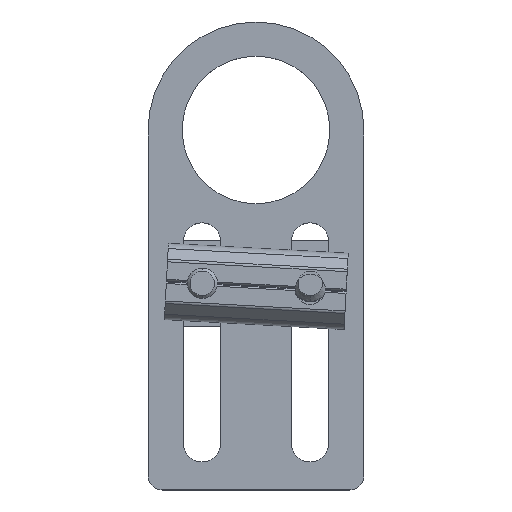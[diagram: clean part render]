
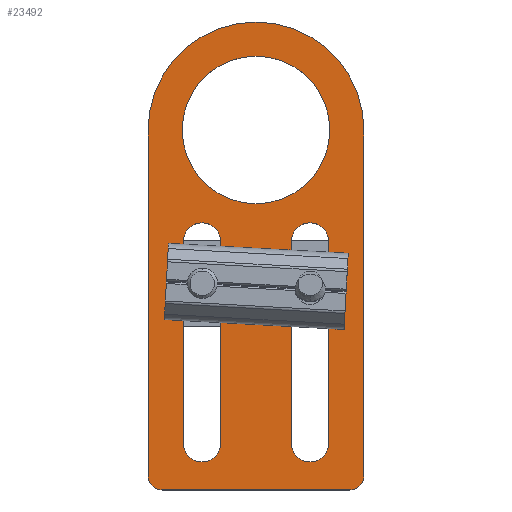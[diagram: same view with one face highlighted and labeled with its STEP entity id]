
A CAD part, top view. The second image highlights one B-rep face of the part: STEP entity #23492.
In plain terms, the highlighted planar face has unit normal (0, 0, 1).
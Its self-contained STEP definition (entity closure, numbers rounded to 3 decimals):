
#69 = EDGE_CURVE ( 'NONE', #13486, #8003, #1138, .T. ) ;
#238 = CIRCLE ( 'NONE', #19460, 10.25 ) ;
#676 = DIRECTION ( 'NONE',  ( -1., 0., 0. ) ) ;
#788 = EDGE_CURVE ( 'NONE', #7559, #11902, #5696, .T. ) ;
#910 = EDGE_CURVE ( 'NONE', #24704, #13486, #21410, .T. ) ;
#1138 = LINE ( 'NONE', #16426, #21660 ) ;
#1253 = CARTESIAN_POINT ( 'NONE',  ( -90.611, -1.976, 57.345 ) ) ;
#1551 = AXIS2_PLACEMENT_3D ( 'NONE', #7754, #5622, #9360 ) ;
#1603 = ORIENTED_EDGE ( 'NONE', *, *, #788, .T. ) ;
#1630 = DIRECTION ( 'NONE',  ( 0., 0., 1. ) ) ;
#1838 = CARTESIAN_POINT ( 'NONE',  ( -108.211, -29.976, 57.345 ) ) ;
#1859 = DIRECTION ( 'NONE',  ( 0., 1., 0. ) ) ;
#2878 = EDGE_CURVE ( 'NONE', #6846, #20332, #5471, .T. ) ;
#3002 = ORIENTED_EDGE ( 'NONE', *, *, #2878, .T. ) ;
#3030 = VERTEX_POINT ( 'NONE', #6841 ) ;
#3185 = LINE ( 'NONE', #6912, #23143 ) ;
#3367 = AXIS2_PLACEMENT_3D ( 'NONE', #9179, #18710, #22638 ) ;
#3538 = EDGE_CURVE ( 'NONE', #20332, #6700, #24167, .T. ) ;
#3564 = VECTOR ( 'NONE', #1859, 1000. ) ;
#3763 = CARTESIAN_POINT ( 'NONE',  ( -90.461, 13.524, 57.345 ) ) ;
#3825 = ORIENTED_EDGE ( 'NONE', *, *, #23209, .T. ) ;
#4050 = CIRCLE ( 'NONE', #14793, 2.6 ) ;
#4423 = DIRECTION ( 'NONE',  ( 0., 0., 1. ) ) ;
#4518 = CARTESIAN_POINT ( 'NONE',  ( -87.711, -34.476, 57.345 ) ) ;
#4539 = AXIS2_PLACEMENT_3D ( 'NONE', #9408, #18768, #20816 ) ;
#4864 = VECTOR ( 'NONE', #8355, 1000. ) ;
#5030 = ORIENTED_EDGE ( 'NONE', *, *, #17384, .T. ) ;
#5175 = EDGE_CURVE ( 'NONE', #17436, #6846, #17914, .T. ) ;
#5234 = ORIENTED_EDGE ( 'NONE', *, *, #24015, .T. ) ;
#5330 = DIRECTION ( 'NONE',  ( 0., 0., -1. ) ) ;
#5471 = LINE ( 'NONE', #19915, #4864 ) ;
#5561 = CARTESIAN_POINT ( 'NONE',  ( -90.611, -3.781, 57.345 ) ) ;
#5575 = CARTESIAN_POINT ( 'NONE',  ( -108.211, -1.976, 57.345 ) ) ;
#5622 = DIRECTION ( 'NONE',  ( 0., 0., 1. ) ) ;
#5670 = ORIENTED_EDGE ( 'NONE', *, *, #7588, .T. ) ;
#5696 = LINE ( 'NONE', #24645, #18959 ) ;
#5776 = LINE ( 'NONE', #5561, #19965 ) ;
#5832 = CARTESIAN_POINT ( 'NONE',  ( -113.711, -36.476, 57.345 ) ) ;
#5845 = EDGE_LOOP ( 'NONE', ( #7960, #7590, #23266, #3825 ) ) ;
#6310 = CARTESIAN_POINT ( 'NONE',  ( -105.611, -1.976, 57.345 ) ) ;
#6492 = FACE_OUTER_BOUND ( 'NONE', #18082, .T. ) ;
#6620 = VERTEX_POINT ( 'NONE', #6956 ) ;
#6700 = VERTEX_POINT ( 'NONE', #7366 ) ;
#6841 = CARTESIAN_POINT ( 'NONE',  ( -110.961, 13.524, 57.345 ) ) ;
#6846 = VERTEX_POINT ( 'NONE', #5832 ) ;
#6912 = CARTESIAN_POINT ( 'NONE',  ( -115.711, -3.781, 57.345 ) ) ;
#6923 = ORIENTED_EDGE ( 'NONE', *, *, #22011, .T. ) ;
#6956 = CARTESIAN_POINT ( 'NONE',  ( -110.811, -29.976, 57.345 ) ) ;
#7215 = VERTEX_POINT ( 'NONE', #13379 ) ;
#7366 = CARTESIAN_POINT ( 'NONE',  ( -85.711, -34.476, 57.345 ) ) ;
#7559 = VERTEX_POINT ( 'NONE', #6310 ) ;
#7588 = EDGE_CURVE ( 'NONE', #13886, #17436, #3185, .T. ) ;
#7590 = ORIENTED_EDGE ( 'NONE', *, *, #910, .T. ) ;
#7641 = CIRCLE ( 'NONE', #14337, 2.6 ) ;
#7754 = CARTESIAN_POINT ( 'NONE',  ( -115.711, -36.476, 57.345 ) ) ;
#7808 = AXIS2_PLACEMENT_3D ( 'NONE', #1838, #15373, #9572 ) ;
#7960 = ORIENTED_EDGE ( 'NONE', *, *, #14539, .T. ) ;
#8003 = VERTEX_POINT ( 'NONE', #23381 ) ;
#8229 = CARTESIAN_POINT ( 'NONE',  ( -87.711, -36.476, 57.345 ) ) ;
#8274 = CARTESIAN_POINT ( 'NONE',  ( -93.211, -1.976, 57.345 ) ) ;
#8355 = DIRECTION ( 'NONE',  ( 1., 0., 0. ) ) ;
#8578 = DIRECTION ( 'NONE',  ( -1., 0., 0. ) ) ;
#8985 = CIRCLE ( 'NONE', #3367, 10.25 ) ;
#9179 = CARTESIAN_POINT ( 'NONE',  ( -100.711, 13.524, 57.345 ) ) ;
#9360 = DIRECTION ( 'NONE',  ( 1., 0., 0. ) ) ;
#9408 = CARTESIAN_POINT ( 'NONE',  ( -100.711, 13.524, 57.345 ) ) ;
#9572 = DIRECTION ( 'NONE',  ( -1., 0., 0. ) ) ;
#9824 = DIRECTION ( 'NONE',  ( -1., 0., 0. ) ) ;
#11162 = DIRECTION ( 'NONE',  ( 0., -1., 0. ) ) ;
#11456 = CARTESIAN_POINT ( 'NONE',  ( -85.711, -3.781, 57.345 ) ) ;
#11595 = DIRECTION ( 'NONE',  ( 0., 0., -1. ) ) ;
#11901 = CIRCLE ( 'NONE', #7808, 2.6 ) ;
#11902 = VERTEX_POINT ( 'NONE', #12405 ) ;
#11975 = CARTESIAN_POINT ( 'NONE',  ( -115.711, -34.476, 57.345 ) ) ;
#11994 = LINE ( 'NONE', #11456, #3564 ) ;
#12109 = VERTEX_POINT ( 'NONE', #3763 ) ;
#12211 = DIRECTION ( 'NONE',  ( 0., 0., 1. ) ) ;
#12234 = FACE_BOUND ( 'NONE', #5845, .T. ) ;
#12405 = CARTESIAN_POINT ( 'NONE',  ( -105.611, -29.976, 57.345 ) ) ;
#12551 = ORIENTED_EDGE ( 'NONE', *, *, #5175, .T. ) ;
#12822 = DIRECTION ( 'NONE',  ( 0., -1., 0. ) ) ;
#13230 = EDGE_CURVE ( 'NONE', #3030, #12109, #238, .T. ) ;
#13379 = CARTESIAN_POINT ( 'NONE',  ( -110.811, -1.976, 57.345 ) ) ;
#13486 = VERTEX_POINT ( 'NONE', #18097 ) ;
#13675 = ORIENTED_EDGE ( 'NONE', *, *, #22473, .T. ) ;
#13886 = VERTEX_POINT ( 'NONE', #16234 ) ;
#13976 = DIRECTION ( 'NONE',  ( 0., 0., -1. ) ) ;
#14030 = VECTOR ( 'NONE', #23355, 1000. ) ;
#14337 = AXIS2_PLACEMENT_3D ( 'NONE', #5575, #5330, #15356 ) ;
#14361 = AXIS2_PLACEMENT_3D ( 'NONE', #21408, #11595, #9824 ) ;
#14454 = ORIENTED_EDGE ( 'NONE', *, *, #13230, .F. ) ;
#14476 = DIRECTION ( 'NONE',  ( 0., 1., 0. ) ) ;
#14536 = AXIS2_PLACEMENT_3D ( 'NONE', #16055, #4423, #676 ) ;
#14539 = EDGE_CURVE ( 'NONE', #20548, #24704, #5776, .T. ) ;
#14615 = LINE ( 'NONE', #15428, #14030 ) ;
#14715 = ORIENTED_EDGE ( 'NONE', *, *, #20175, .F. ) ;
#14732 = ORIENTED_EDGE ( 'NONE', *, *, #3538, .T. ) ;
#14793 = AXIS2_PLACEMENT_3D ( 'NONE', #8274, #13976, #15920 ) ;
#15110 = AXIS2_PLACEMENT_3D ( 'NONE', #4518, #12211, #8578 ) ;
#15356 = DIRECTION ( 'NONE',  ( -1., 0., 0. ) ) ;
#15373 = DIRECTION ( 'NONE',  ( 0., 0., -1. ) ) ;
#15428 = CARTESIAN_POINT ( 'NONE',  ( -110.811, -3.781, 57.345 ) ) ;
#15489 = PLANE ( 'NONE',  #1551 ) ;
#15920 = DIRECTION ( 'NONE',  ( -1., 0., 0. ) ) ;
#16055 = CARTESIAN_POINT ( 'NONE',  ( -113.711, -34.476, 57.345 ) ) ;
#16234 = CARTESIAN_POINT ( 'NONE',  ( -115.711, 13.524, 57.345 ) ) ;
#16426 = CARTESIAN_POINT ( 'NONE',  ( -95.811, -3.781, 57.345 ) ) ;
#16531 = CIRCLE ( 'NONE', #4539, 15. ) ;
#16603 = EDGE_LOOP ( 'NONE', ( #14454, #14715 ) ) ;
#16689 = EDGE_CURVE ( 'NONE', #11902, #6620, #11901, .T. ) ;
#17384 = EDGE_CURVE ( 'NONE', #6620, #7215, #14615, .T. ) ;
#17436 = VERTEX_POINT ( 'NONE', #11975 ) ;
#17914 = CIRCLE ( 'NONE', #14536, 2. ) ;
#18082 = EDGE_LOOP ( 'NONE', ( #12551, #3002, #14732, #6923, #13675, #5670 ) ) ;
#18097 = CARTESIAN_POINT ( 'NONE',  ( -95.811, -29.976, 57.345 ) ) ;
#18650 = CARTESIAN_POINT ( 'NONE',  ( -100.711, 13.524, 57.345 ) ) ;
#18710 = DIRECTION ( 'NONE',  ( 0., 0., 1. ) ) ;
#18768 = DIRECTION ( 'NONE',  ( 0., 0., 1. ) ) ;
#18959 = VECTOR ( 'NONE', #23051, 1000. ) ;
#19460 = AXIS2_PLACEMENT_3D ( 'NONE', #18650, #1630, #22747 ) ;
#19915 = CARTESIAN_POINT ( 'NONE',  ( -100.711, -36.476, 57.345 ) ) ;
#19965 = VECTOR ( 'NONE', #11162, 1000. ) ;
#20055 = FACE_BOUND ( 'NONE', #16603, .T. ) ;
#20175 = EDGE_CURVE ( 'NONE', #12109, #3030, #8985, .T. ) ;
#20332 = VERTEX_POINT ( 'NONE', #8229 ) ;
#20548 = VERTEX_POINT ( 'NONE', #1253 ) ;
#20816 = DIRECTION ( 'NONE',  ( -1., 0., 0. ) ) ;
#21408 = CARTESIAN_POINT ( 'NONE',  ( -93.211, -29.976, 57.345 ) ) ;
#21410 = CIRCLE ( 'NONE', #14361, 2.6 ) ;
#21660 = VECTOR ( 'NONE', #14476, 1000. ) ;
#21703 = EDGE_LOOP ( 'NONE', ( #5030, #5234, #1603, #23791 ) ) ;
#22011 = EDGE_CURVE ( 'NONE', #6700, #22913, #11994, .T. ) ;
#22473 = EDGE_CURVE ( 'NONE', #22913, #13886, #16531, .T. ) ;
#22638 = DIRECTION ( 'NONE',  ( -1., 0., 0. ) ) ;
#22668 = CARTESIAN_POINT ( 'NONE',  ( -90.611, -29.976, 57.345 ) ) ;
#22747 = DIRECTION ( 'NONE',  ( -1., 0., 0. ) ) ;
#22913 = VERTEX_POINT ( 'NONE', #24939 ) ;
#23051 = DIRECTION ( 'NONE',  ( 0., -1., 0. ) ) ;
#23143 = VECTOR ( 'NONE', #12822, 1000. ) ;
#23209 = EDGE_CURVE ( 'NONE', #8003, #20548, #4050, .T. ) ;
#23266 = ORIENTED_EDGE ( 'NONE', *, *, #69, .T. ) ;
#23355 = DIRECTION ( 'NONE',  ( 0., 1., 0. ) ) ;
#23381 = CARTESIAN_POINT ( 'NONE',  ( -95.811, -1.976, 57.345 ) ) ;
#23492 = ADVANCED_FACE ( 'NONE', ( #12234, #20055, #24037, #6492 ), #15489, .T. ) ;
#23791 = ORIENTED_EDGE ( 'NONE', *, *, #16689, .T. ) ;
#24015 = EDGE_CURVE ( 'NONE', #7215, #7559, #7641, .T. ) ;
#24037 = FACE_BOUND ( 'NONE', #21703, .T. ) ;
#24167 = CIRCLE ( 'NONE', #15110, 2. ) ;
#24645 = CARTESIAN_POINT ( 'NONE',  ( -105.611, -3.781, 57.345 ) ) ;
#24704 = VERTEX_POINT ( 'NONE', #22668 ) ;
#24939 = CARTESIAN_POINT ( 'NONE',  ( -85.711, 13.524, 57.345 ) ) ;
